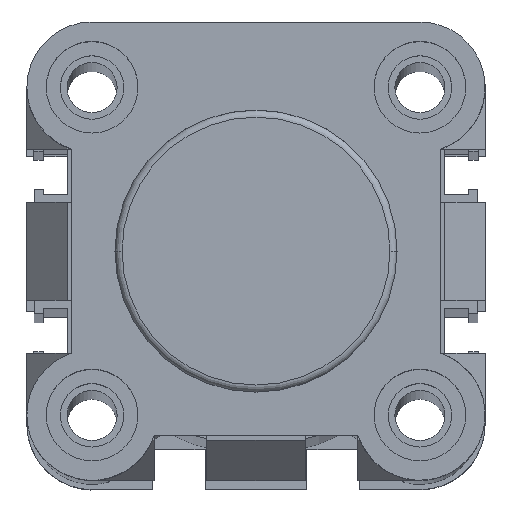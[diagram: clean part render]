
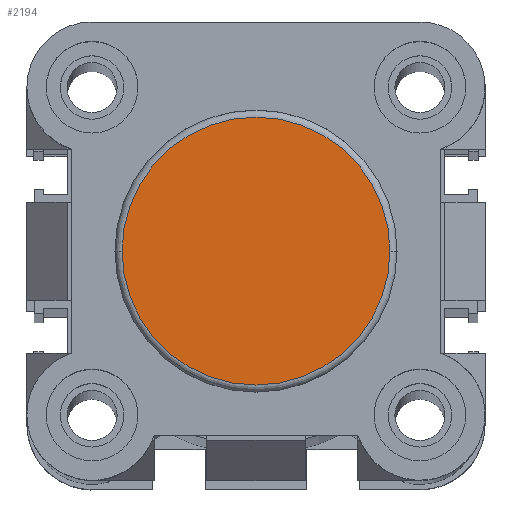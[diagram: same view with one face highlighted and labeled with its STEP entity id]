
A CAD part, top view. The second image highlights one B-rep face of the part: STEP entity #2194.
In plain terms, the highlighted planar face has unit normal (0, 0, 1).
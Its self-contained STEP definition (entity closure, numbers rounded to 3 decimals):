
#1982 = EDGE_CURVE ( 'NONE', #23419, #13522, #4138, .T. ) ;
#2194 = ADVANCED_FACE ( 'NONE', ( #21693 ), #13791, .T. ) ;
#2419 = CARTESIAN_POINT ( 'NONE',  ( 32.5, 32.5, 34. ) ) ;
#3090 = DIRECTION ( 'NONE',  ( 0., 0., 1. ) ) ;
#4138 = CIRCLE ( 'NONE', #19246, 19. ) ;
#4693 = CARTESIAN_POINT ( 'NONE',  ( 32.5, 32.5, 34. ) ) ;
#4812 = DIRECTION ( 'NONE',  ( 1., 0., 0. ) ) ;
#5453 = CARTESIAN_POINT ( 'NONE',  ( 13.5, 32.5, 34. ) ) ;
#5493 = CARTESIAN_POINT ( 'NONE',  ( 51.5, 32.5, 34. ) ) ;
#12896 = CARTESIAN_POINT ( 'NONE',  ( 32.5, 32.5, 34. ) ) ;
#13522 = VERTEX_POINT ( 'NONE', #5493 ) ;
#13791 = PLANE ( 'NONE',  #21576 ) ;
#15854 = EDGE_CURVE ( 'NONE', #13522, #23419, #24125, .T. ) ;
#18170 = AXIS2_PLACEMENT_3D ( 'NONE', #4693, #23821, #23912 ) ;
#18944 = ORIENTED_EDGE ( 'NONE', *, *, #15854, .T. ) ;
#19246 = AXIS2_PLACEMENT_3D ( 'NONE', #12896, #24385, #22563 ) ;
#20148 = ORIENTED_EDGE ( 'NONE', *, *, #1982, .T. ) ;
#20668 = EDGE_LOOP ( 'NONE', ( #18944, #20148 ) ) ;
#21576 = AXIS2_PLACEMENT_3D ( 'NONE', #2419, #3090, #4812 ) ;
#21693 = FACE_OUTER_BOUND ( 'NONE', #20668, .T. ) ;
#22563 = DIRECTION ( 'NONE',  ( 1., 0., 0. ) ) ;
#23419 = VERTEX_POINT ( 'NONE', #5453 ) ;
#23821 = DIRECTION ( 'NONE',  ( 0., 0., 1. ) ) ;
#23912 = DIRECTION ( 'NONE',  ( 1., 0., 0. ) ) ;
#24125 = CIRCLE ( 'NONE', #18170, 19. ) ;
#24385 = DIRECTION ( 'NONE',  ( 0., 0., 1. ) ) ;
